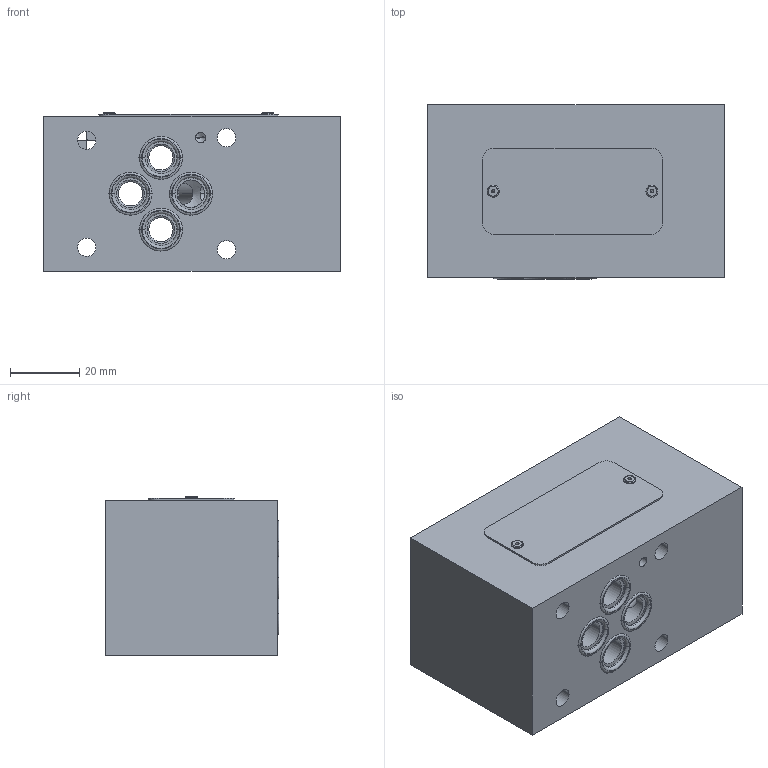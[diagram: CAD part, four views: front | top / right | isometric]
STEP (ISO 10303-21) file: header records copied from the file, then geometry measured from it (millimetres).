
FILE_DESCRIPTION((''),'2;1');
FILE_NAME('30708400_ASM','2023-10-12T',('l.soukupova'),(''),'PRO/ENGINEER BY PARAMETRIC TECHNOLOGY CORPORATION, 2015440','PRO/ENGINEER BY PARAMETRIC TECHNOLOGY CORPORATION, 2015440','');
FILE_SCHEMA(('AUTOMOTIVE_DESIGN { 1 0 10303 214 1 1 1 1 }'));
Length unit declared in the file: millimetre
Products named in the file (8): 30708601; RD_LABEL_25X52_159703; AF_1932_16485; ORAR00012_201524_AF8; ORAR00012_201524_AF9; ORAR00012_201524_AF10; ORAR00012_201524_AF11; 30708400_ASM
Assembly tree (8 placements, depth 2):
  30708400_ASM
    30708601
    RD_LABEL_25X52_159703
    AF_1932_16485  x2
    ORAR00012_201524_AF8
    ORAR00012_201524_AF9
    ORAR00012_201524_AF10
    ORAR00012_201524_AF11
Bounding box: 86 x 50.38 x 46 mm (x, y, z)
Volume: 169281 mm3; surface area: 35535.7 mm2
Topology: 8 solids, 11 shells, 188 faces, 575 edges, 483 vertices
Faces by surface type: cylinder 92, torus 36, plane 34, cone 26
Entity records: 10481 total; most frequent: CARTESIAN_POINT 1816, DIRECTION 1232, ORIENTED_EDGE 798, PRESENTATION_STYLE_ASSIGNMENT 707, STYLED_ITEM 600, CURVE_STYLE 591, AXIS2_PLACEMENT_3D 493, EDGE_CURVE 405
